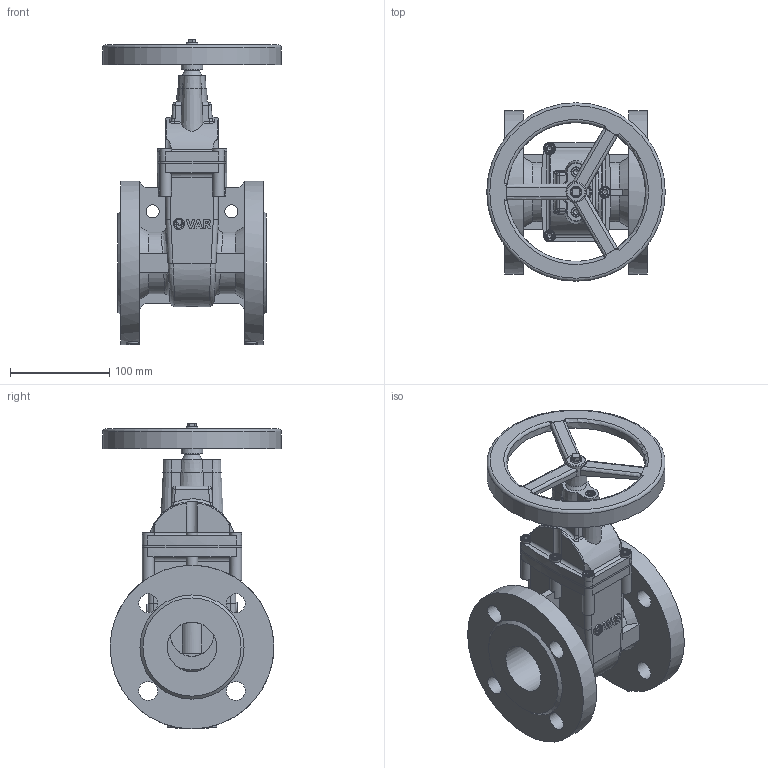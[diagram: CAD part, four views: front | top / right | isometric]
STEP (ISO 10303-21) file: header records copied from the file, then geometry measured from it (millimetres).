
FILE_DESCRIPTION(('STEP AP242'), '1');
FILE_NAME('青溻桄赅', '', ('UNSPECIFIED'), ('UNSPECIFIED'), 'C3D Converter', 'C3D Toolkit', '');
FILE_SCHEMA(('AP242_MANAGED_MODEL_BASED_3D_ENGINEERING_MIM_LF { 1 0 10303 442 1 1 4 }'));
Length unit declared in the file: millimetre
Assembly tree (17 placements, depth 2):
  (unnamed)
    (unnamed)
    (unnamed)
    (unnamed)
    (unnamed)
    (unnamed)  x2
    (unnamed)
    (unnamed)
    (unnamed)  x6
    (unnamed)
    (unnamed)  x2
Bounding box: 180 x 180 x 308.3 mm (x, y, z)
Volume: 1518124.2 mm3; surface area: 369834 mm2
Topology: 20 solids, 20 shells, 919 faces, 2279 edges, 1448 vertices
Faces by surface type: plane 459, cylinder 189, extrusion 119, cone 69, bspline 62, torus 21
Full cylindrical faces by diameter (mm): 5 x11, 6 x30, 10 x8, 10.2 x8, 11 x7, 11.345 x1, 13.253 x2, 19 x8, 23.667 x3, 43.667 x2, 50 x4, 70.267 x4, 75.333 x1, 140 x1, 150 x1, 165 x2, 170 x1, 180 x1
Entity records: 39675 total; most frequent: CARTESIAN_POINT 19545, ORIENTED_EDGE 3684, DIRECTION 2966, EDGE_CURVE 1842, VERTEX_POINT 1252, EDGE_LOOP 1006, VECTOR 1000, AXIS2_PLACEMENT_3D 983
